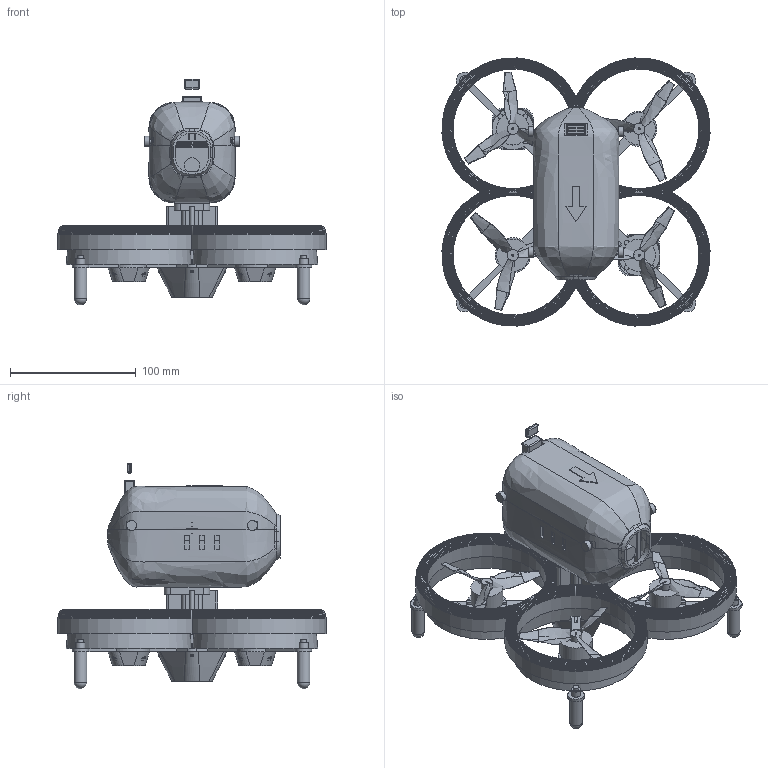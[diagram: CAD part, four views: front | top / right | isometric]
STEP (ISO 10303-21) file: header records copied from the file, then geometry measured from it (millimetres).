
FILE_DESCRIPTION(('Open CASCADE Model'),'2;1');
FILE_NAME('Open CASCADE Shape Model','2026-10-28T13:36:29',('Author'),( 'Open CASCADE'),'Open CASCADE STEP processor 7.9','Open CASCADE 7.9' ,'Unknown');
FILE_SCHEMA(('AUTOMOTIVE_DESIGN { 1 0 10303 214 1 1 1 1 }'));
Length unit declared in the file: millimetre
Products named in the file (199): themis35; t35-duct-1-FR; t35-duct-2-RL; t35-duct-3-FL; t35-duct-4-RR; t35-crest-clip-right; t35-crest-clip-left; t35-crest-clip-front; t35-crest-clip-rear; t35-decal-1-FR-CCW; t35-decal-2-RL-CCW; t35-decal-3-FL-CW; t35-decal-4-RR-CW; t35-carbon-plate; t35-foot-FR; t35-foot-RL; t35-foot-FL; t35-foot-RR; t35-spine; t35-camera-fairing; t35-blister-hflow-m2; t35-blister-uwb-m1; t35-pod-lower; t35-canopy; t35-nose-bumper; t35-pi-shelf; t35-battery-tray; t35-motor-1-FR-base; t35-motor-1-FR-bell; t35-prop-1-FR-CCW; t35-m2x6-motor1-+6+6; t35-m2x6-motor1--6+6; t35-m2x6-motor1-+6-6; t35-m2x6-motor1--6-6; t35-motor-2-RL-base; t35-motor-2-RL-bell; t35-prop-2-RL-CCW; t35-m2x6-motor2-+6+6; t35-m2x6-motor2--6+6; t35-m2x6-motor2-+6-6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
Assembly tree (198 placements, depth 2):
  themis35
    t35-duct-1-FR
    t35-duct-2-RL
    t35-duct-3-FL
    t35-duct-4-RR
    t35-crest-clip-right
    t35-crest-clip-left
    t35-crest-clip-front
    t35-crest-clip-rear
    t35-decal-1-FR-CCW
    t35-decal-2-RL-CCW
    t35-decal-3-FL-CW
    t35-decal-4-RR-CW
    t35-carbon-plate
    t35-foot-FR
    t35-foot-RL
    t35-foot-FL
    t35-foot-RR
    t35-spine
    t35-camera-fairing
    t35-blister-hflow-m2
    t35-blister-uwb-m1
    t35-pod-lower
    t35-canopy
    t35-nose-bumper
    t35-pi-shelf
    t35-battery-tray
    t35-motor-1-FR-base
    t35-motor-1-FR-bell
    t35-prop-1-FR-CCW
    t35-m2x6-motor1-+6+6
    t35-m2x6-motor1--6+6
    t35-m2x6-motor1-+6-6
    t35-m2x6-motor1--6-6
    t35-motor-2-RL-base
    t35-motor-2-RL-bell
    t35-prop-2-RL-CCW
    t35-m2x6-motor2-+6+6
    t35-m2x6-motor2--6+6
    t35-m2x6-motor2-+6-6
    t35-m2x6-motor2--6-6
    t35-motor-3-FL-base
    t35-motor-3-FL-bell
    t35-prop-3-FL-CW
    t35-m2x6-motor3-+6+6
    t35-m2x6-motor3--6+6
    t35-m2x6-motor3-+6-6
    t35-m2x6-motor3--6-6
    t35-motor-4-RR-base
    t35-motor-4-RR-bell
    t35-prop-4-RR-CW
    t35-m2x6-motor4-+6+6
    t35-m2x6-motor4--6+6
    t35-m2x6-motor4-+6-6
    t35-m2x6-motor4--6-6
    t35-esc
    t35-esc-grommet-1a
    t35-esc-grommet-1b
    t35-m3x16-esc-1
    t35-insert-m3-spine-1
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Bounding box: 213.14 x 213.14 x 179.5 mm (x, y, z)
Volume: 454938.8 mm3; surface area: 398216.9 mm2
Topology: 229 solids, 230 shells, 3185 faces, 7416 edges, 4534 vertices
Faces by surface type: plane 1448, cylinder 677, cone 652, sphere 208, bspline 151, extrusion 49
Full cylindrical faces by diameter (mm): 1.5 x4, 2 x36, 2.2 x28, 2.5 x28, 2.7 x28, 3 x17, 3.2 x4, 3.4 x4, 3.5 x2, 3.8 x24, 4 x28, 4.5 x16, 4.6 x16, 4.7 x4, 5.7 x4, 6 x8, 6.3 x4, 7 x6, 7.2 x4, 8 x4, 9 x4, 10 x4, 12 x1, 14 x1, 16 x1, 24 x4, 25.65 x4, 26 x1, 95 x4, 97.397 x4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
Entity records: 230611 total; most frequent: CARTESIAN_POINT 83726, DIRECTION 26157, ORIENTED_EDGE 14376, PCURVE 14376, DEFINITIONAL_REPRESENTATION 14376, VECTOR 12740, LINE 12691, EDGE_CURVE 7192
